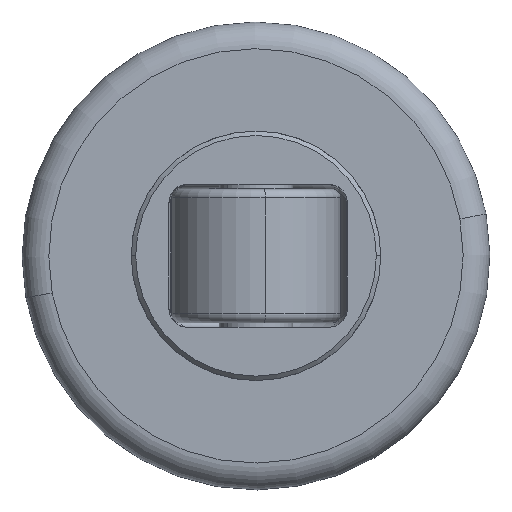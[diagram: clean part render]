
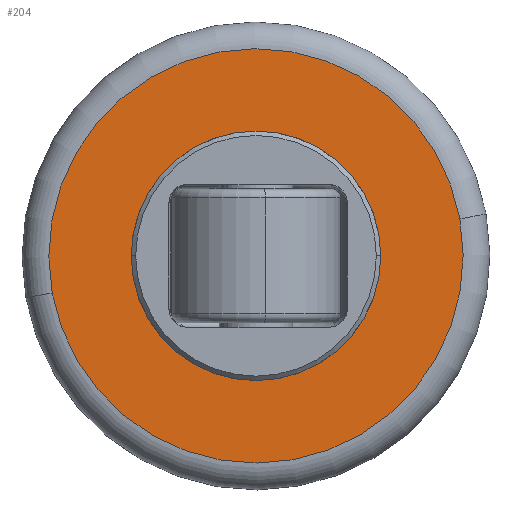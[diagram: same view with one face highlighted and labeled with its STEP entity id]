
A CAD part, top view. The second image highlights one B-rep face of the part: STEP entity #204.
In plain terms, the highlighted planar face has unit normal (0, 0, 1).
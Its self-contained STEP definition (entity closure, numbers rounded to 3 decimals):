
#57 = EDGE_CURVE ( 'NONE', #1487, #1501, #372, .T. ) ;
#67 = EDGE_CURVE ( 'NONE', #1482, #1521, #384, .T. ) ;
#135 = EDGE_CURVE ( 'NONE', #1501, #1487, #450, .T. ) ;
#140 = EDGE_CURVE ( 'NONE', #1521, #1482, #488, .T. ) ;
#204 = ADVANCED_FACE ( 'NONE', ( #2601, #2649 ), #2662, .T. ) ;
#372 = CIRCLE ( 'NONE', #376, 14. ) ;
#376 = AXIS2_PLACEMENT_3D ( 'NONE', #846, #847, #872 ) ;
#384 = CIRCLE ( 'NONE', #408, 23.25 ) ;
#408 = AXIS2_PLACEMENT_3D ( 'NONE', #915, #925, #885 ) ;
#450 = CIRCLE ( 'NONE', #479, 14. ) ;
#479 = AXIS2_PLACEMENT_3D ( 'NONE', #2283, #2276, #2308 ) ;
#488 = CIRCLE ( 'NONE', #539, 23.25 ) ;
#539 = AXIS2_PLACEMENT_3D ( 'NONE', #2367, #2345, #2352 ) ;
#601 = AXIS2_PLACEMENT_3D ( 'NONE', #2639, #2646, #2633 ) ;
#846 = CARTESIAN_POINT ( 'NONE',  ( 0., 0., 8.5 ) ) ;
#847 = DIRECTION ( 'NONE',  ( 0., 0., 1. ) ) ;
#872 = DIRECTION ( 'NONE',  ( 1., 0., 0. ) ) ;
#885 = DIRECTION ( 'NONE',  ( 1., 0., 0. ) ) ;
#915 = CARTESIAN_POINT ( 'NONE',  ( 0., 0., 8.5 ) ) ;
#925 = DIRECTION ( 'NONE',  ( 0., 0., 1. ) ) ;
#1179 = EDGE_LOOP ( 'NONE', ( #1317, #1306 ) ) ;
#1254 = EDGE_LOOP ( 'NONE', ( #1282, #1318 ) ) ;
#1282 = ORIENTED_EDGE ( 'NONE', *, *, #57, .F. ) ;
#1306 = ORIENTED_EDGE ( 'NONE', *, *, #140, .T. ) ;
#1317 = ORIENTED_EDGE ( 'NONE', *, *, #67, .T. ) ;
#1318 = ORIENTED_EDGE ( 'NONE', *, *, #135, .F. ) ;
#1482 = VERTEX_POINT ( 'NONE', #2717 ) ;
#1487 = VERTEX_POINT ( 'NONE', #2703 ) ;
#1501 = VERTEX_POINT ( 'NONE', #2684 ) ;
#1521 = VERTEX_POINT ( 'NONE', #2738 ) ;
#2276 = DIRECTION ( 'NONE',  ( 0., 0., 1. ) ) ;
#2283 = CARTESIAN_POINT ( 'NONE',  ( 0., 0., 8.5 ) ) ;
#2308 = DIRECTION ( 'NONE',  ( 1., 0., 0. ) ) ;
#2345 = DIRECTION ( 'NONE',  ( 0., 0., 1. ) ) ;
#2352 = DIRECTION ( 'NONE',  ( 1., 0., 0. ) ) ;
#2367 = CARTESIAN_POINT ( 'NONE',  ( 0., 0., 8.5 ) ) ;
#2601 = FACE_OUTER_BOUND ( 'NONE', #1179, .T. ) ;
#2633 = DIRECTION ( 'NONE',  ( 1., 0., 0. ) ) ;
#2639 = CARTESIAN_POINT ( 'NONE',  ( 0., 0., 8.5 ) ) ;
#2646 = DIRECTION ( 'NONE',  ( 0., 0., 1. ) ) ;
#2649 = FACE_BOUND ( 'NONE', #1254, .T. ) ;
#2662 = PLANE ( 'NONE',  #601 ) ;
#2684 = CARTESIAN_POINT ( 'NONE',  ( 14., 0., 8.5 ) ) ;
#2703 = CARTESIAN_POINT ( 'NONE',  ( -14., 0., 8.5 ) ) ;
#2717 = CARTESIAN_POINT ( 'NONE',  ( 23.25, 0., 8.5 ) ) ;
#2738 = CARTESIAN_POINT ( 'NONE',  ( -23.25, 0., 8.5 ) ) ;
